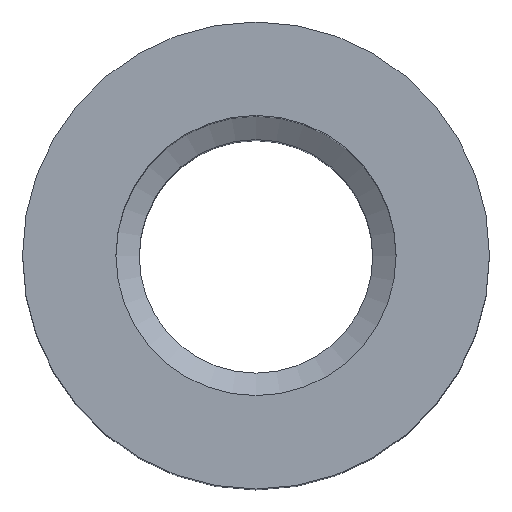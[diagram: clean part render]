
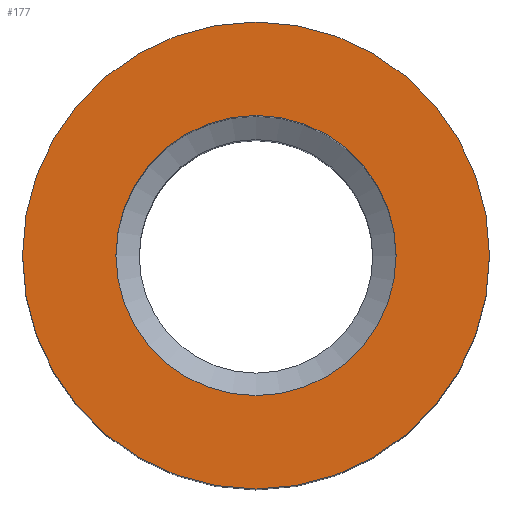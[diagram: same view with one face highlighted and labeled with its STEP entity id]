
A CAD part, top view. The second image highlights one B-rep face of the part: STEP entity #177.
In plain terms, the highlighted planar face has unit normal (0, 0, 1).
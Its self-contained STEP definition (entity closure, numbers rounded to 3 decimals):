
#143=CARTESIAN_POINT('',(3.,0.0,-4.));
#144=VERTEX_POINT('',#143);
#145=CARTESIAN_POINT('',(0.,0.0,-4.0));
#146=DIRECTION('',(0.0,0.0,-1.0));
#147=DIRECTION('',(1.0,0.0,0.0));
#148=AXIS2_PLACEMENT_3D('',#145,#146,#147);
#149=CIRCLE('',#148,3.);
#150=EDGE_CURVE('',#144,#144,#149,.T.);
#158=CARTESIAN_POINT('',(-12.588,0.0,-4.));
#159=DIRECTION('',(0.0,0.0,-1.0));
#160=DIRECTION('',(-1.0,0.0,0.0));
#161=AXIS2_PLACEMENT_3D('',#158,#159,#160);
#162=PLANE('',#161);
#163=CARTESIAN_POINT('',(-5.0,0.,-4.0));
#164=VERTEX_POINT('',#163);
#165=CARTESIAN_POINT('',(0.0,0.0,-4.0));
#166=DIRECTION('',(0.0,0.0,1.0));
#167=DIRECTION('',(1.0,0.0,0.0));
#168=AXIS2_PLACEMENT_3D('',#165,#166,#167);
#169=CIRCLE('',#168,5.0);
#170=EDGE_CURVE('',#164,#164,#169,.T.);
#171=ORIENTED_EDGE('',*,*,#170,.T.);
#172=EDGE_LOOP('',(#171));
#173=FACE_OUTER_BOUND('',#172,.T.);
#174=ORIENTED_EDGE('',*,*,#150,.T.);
#175=EDGE_LOOP('',(#174));
#176=FACE_BOUND('',#175,.T.);
#177=ADVANCED_FACE('',(#173,#176),#162,.F.);
